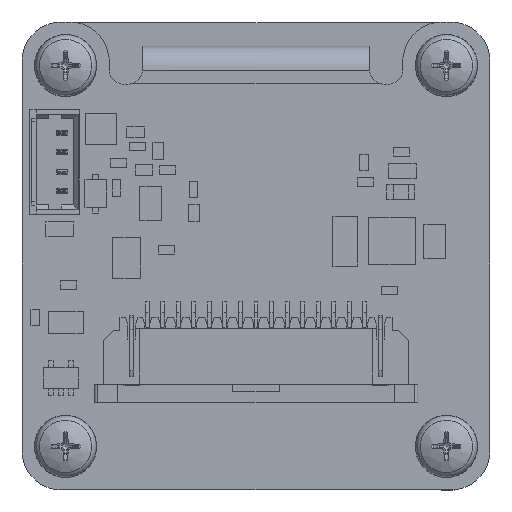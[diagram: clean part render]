
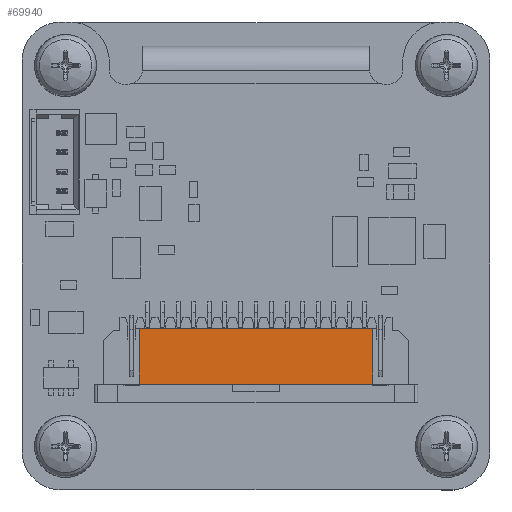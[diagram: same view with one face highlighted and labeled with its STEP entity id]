
A CAD part, top view. The second image highlights one B-rep face of the part: STEP entity #69940.
In plain terms, the highlighted planar face has unit normal (0, 0, 1).
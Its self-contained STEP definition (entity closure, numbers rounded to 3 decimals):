
#6126=PLANE('',#74118);
#9707=FACE_OUTER_BOUND('',#13413,.T.);
#13413=EDGE_LOOP('',(#62304,#62305,#62306,#62307));
#20777=LINE('',#106073,#29718);
#20778=LINE('',#106075,#29719);
#20779=LINE('',#106077,#29720);
#20780=LINE('',#106078,#29721);
#29718=VECTOR('',#87491,1.);
#29719=VECTOR('',#87492,1.);
#29720=VECTOR('',#87493,1.);
#29721=VECTOR('',#87494,1.);
#37258=VERTEX_POINT('',#106071);
#37259=VERTEX_POINT('',#106072);
#37260=VERTEX_POINT('',#106074);
#37261=VERTEX_POINT('',#106076);
#45834=EDGE_CURVE('',#37258,#37259,#20777,.T.);
#45835=EDGE_CURVE('',#37258,#37260,#20778,.T.);
#45836=EDGE_CURVE('',#37261,#37260,#20779,.T.);
#45837=EDGE_CURVE('',#37259,#37261,#20780,.T.);
#62304=ORIENTED_EDGE('',*,*,#45834,.F.);
#62305=ORIENTED_EDGE('',*,*,#45835,.T.);
#62306=ORIENTED_EDGE('',*,*,#45836,.F.);
#62307=ORIENTED_EDGE('',*,*,#45837,.F.);
#69940=ADVANCED_FACE('',(#9707),#6126,.F.);
#74118=AXIS2_PLACEMENT_3D('',#106070,#87489,#87490);
#87489=DIRECTION('center_axis',(0.,0.,-1.));
#87490=DIRECTION('ref_axis',(-1.,0.,0.));
#87491=DIRECTION('',(1.,0.,0.));
#87492=DIRECTION('',(0.,-1.,0.));
#87493=DIRECTION('',(-1.,0.,0.));
#87494=DIRECTION('',(0.,-1.,0.));
#106070=CARTESIAN_POINT('Origin',(24.8,5.55,2.713));
#106071=CARTESIAN_POINT('',(7.5,10.35,2.713));
#106072=CARTESIAN_POINT('',(22.5,10.35,2.713));
#106073=CARTESIAN_POINT('',(7.5,10.35,2.713));
#106074=CARTESIAN_POINT('',(7.5,6.75,2.713));
#106075=CARTESIAN_POINT('',(7.5,10.35,2.713));
#106076=CARTESIAN_POINT('',(22.5,6.75,2.713));
#106077=CARTESIAN_POINT('',(22.5,6.75,2.713));
#106078=CARTESIAN_POINT('',(22.5,10.35,2.713));
